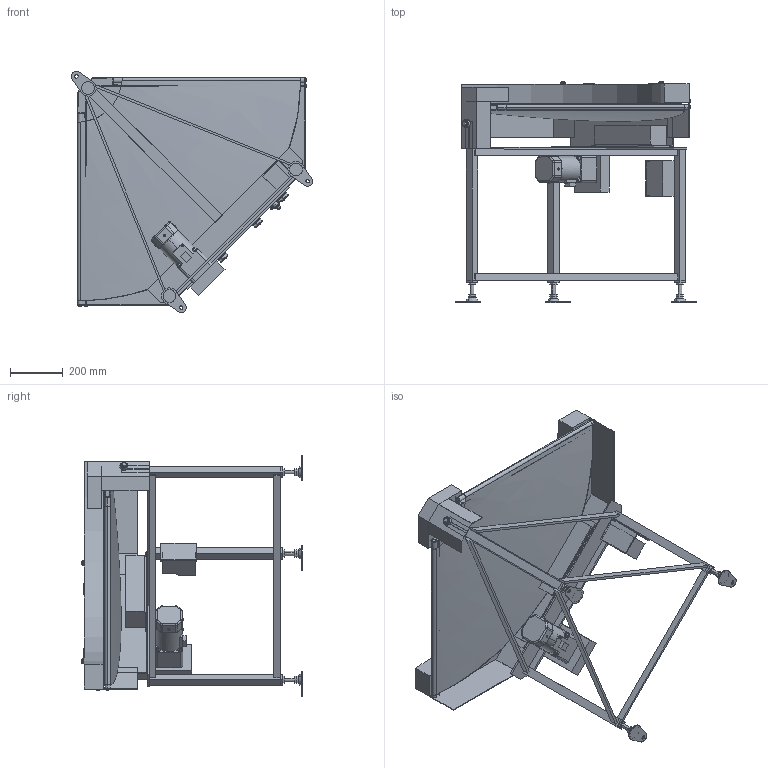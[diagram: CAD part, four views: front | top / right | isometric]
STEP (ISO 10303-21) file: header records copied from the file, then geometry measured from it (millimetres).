
FILE_DESCRIPTION (( 'STEP AP214' ), '1' );
FILE_NAME ('GBC90-UDH600-L.STEP', '2024-12-11T00:53:41', ( '' ), ( '' ), 'SwSTEP 2.0', 'SolidWorks 2017', '' );
FILE_SCHEMA (( 'AUTOMOTIVE_DESIGN' ));
Length unit declared in the file: millimetre
Products named in the file (1): GBC90-UDH600-L
Bounding box: 917.51 x 839.92 x 917.51 mm (x, y, z)
Volume: 26672272.3 mm3; surface area: 5896289.1 mm2
Topology: 55 solids, 60 shells, 1136 faces, 2596 edges, 1657 vertices
Faces by surface type: plane 609, cylinder 328, cone 107, bspline 60, torus 24, sphere 8
Entity records: 40483 total; most frequent: CARTESIAN_POINT 13309, DIRECTION 5287, ORIENTED_EDGE 5160, EDGE_CURVE 2580, AXIS2_PLACEMENT_3D 1908, VERTEX_POINT 1653, LINE 1471, VECTOR 1471
